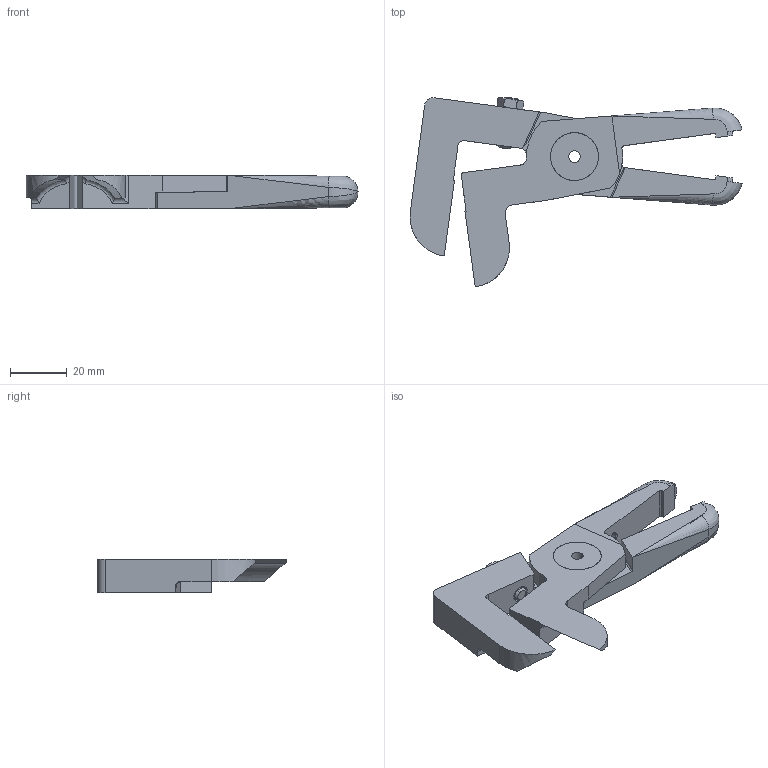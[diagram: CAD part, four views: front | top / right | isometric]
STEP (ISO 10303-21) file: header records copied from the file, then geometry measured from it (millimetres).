
FILE_DESCRIPTION (( 'STEP AP214' ), '1' );
FILE_NAME ('N20AMR1499.STEP', '2019-11-29T08:43:34', ( '微软用户' ), ( '微软中国' ), 'SwSTEP 2.0', 'SolidWorks 2016', '' );
FILE_SCHEMA (( 'AUTOMOTIVE_DESIGN' ));
Length unit declared in the file: millimetre
Products named in the file (6): NT; STB; BR2; BR1; BS; N20AMR1499
Assembly tree (5 placements, depth 2):
  N20AMR1499
    BS
    BR1
    BR2
    STB
    NT
Bounding box: 117.49 x 67.15 x 12 mm (x, y, z)
Volume: 34049.2 mm3; surface area: 16047.9 mm2
Topology: 4 solids, 6 shells, 188 faces, 509 edges, 323 vertices
Faces by surface type: plane 72, bspline 61, cylinder 30, cone 25
Entity records: 10703 total; most frequent: CARTESIAN_POINT 6349, ORIENTED_EDGE 972, DIRECTION 679, EDGE_CURVE 497, VERTEX_POINT 323, LINE 251, VECTOR 251, AXIS2_PLACEMENT_3D 214
